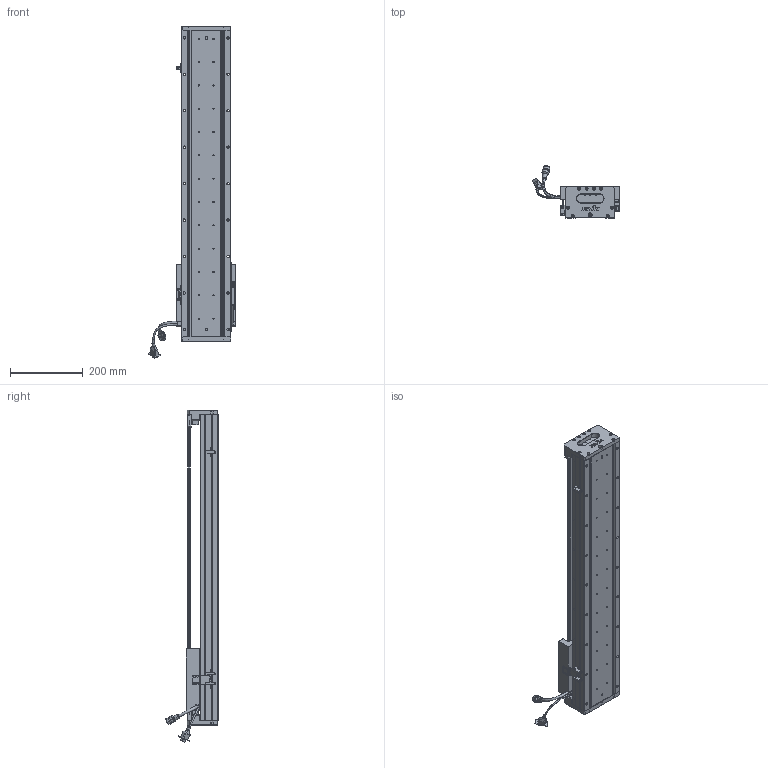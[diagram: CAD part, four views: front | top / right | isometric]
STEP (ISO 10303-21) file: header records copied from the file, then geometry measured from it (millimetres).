
FILE_DESCRIPTION (( 'STEP AP203' ), '1' );
FILE_NAME ('Z2-RY140D-1-L500-B-K.SLDASM_0600.step', '2021-05-17T07:45:06', ( '盈信电脑' ), ( '东莞市道滘镇水果街19号' ), 'SwSTEP 2.0', 'SolidWorks 2016', '' );
FILE_SCHEMA (( 'CONFIG_CONTROL_DESIGN' ));
Length unit declared in the file: millimetre
Products named in the file (36): SCREW-M1.6-3; COVER-Part-1; SEAL; HARNESS-Part-1; Z-RY140詩湍狟揤裔; HARNESS; COVER; SCREW-M1.7-1; SCALE-Part-2; SHIELDPLATE; 140-Z-臏賑輸盄裔(21遴); SCREW-M1.6-2; HARNESS-Part-2; Z2-RY140-L500詩湍100mm遵_0600; PSLH080_PSLF2; SCREW-M1.6; Z-RY140詩湍奻揤裔; 080黍杅芛假蚾釱21遴; HOLDER0; Z2-RY140-L500直线电机模组底座_0600; SCREW-M1.6-1; 140雄赽晤鎢ん堤盄; Z-RY140感应器672光电感应片; LABEL-Part-1; SCALE; 140蚥薯蝶輸; Z2-RY140圉猾敕臏賑輸(21遴); 榋妏寠巭燃_暯_M2_2; SCALE-Part-1; LABEL; SCREW-M1.7; SEAL-Part-1; 覜茼ん672; Z-140詩湍傷裔啣; Z2-RY140D-1-L500-B-K.SLDASM_0600; PBU_SHEET
Assembly tree (41 placements, depth 4):
  Z2-RY140D-1-L500-B-K.SLDASM_0600
    Z2-RY140-L500直线电机模组底座_0600
    Z-RY140感应器672光电感应片
    Z2-RY140圉猾敕臏賑輸(21遴)
    覜茼ん672  x3
    Z2-RY140-L500詩湍100mm遵_0600
    PSLH080_PSLF2
      SCALE
        SCALE-Part-1
        SCALE-Part-2
      HARNESS
        HARNESS-Part-1
        HARNESS-Part-2
      LABEL
        LABEL-Part-1
      COVER
        COVER-Part-1
      SEAL
        SEAL-Part-1
      榋妏寠巭燃_暯_M2_2
      SHIELDPLATE
      SCREW-M1.7
      SCREW-M1.7-1
      PBU_SHEET
      SCREW-M1.6
      SCREW-M1.6-1
      SCREW-M1.6-2
      SCREW-M1.6-3
      HOLDER0
    080黍杅芛假蚾釱21遴
    140-Z-臏賑輸盄裔(21遴)
    Z-140詩湍傷裔啣  x2
    Z-RY140詩湍狟揤裔  x2
    Z-RY140詩湍奻揤裔  x2
    140蚥薯蝶輸  x2
    140雄赽晤鎢ん堤盄
Bounding box: 239.84 x 143.77 x 910.88 mm (x, y, z)
Volume: 3383189.5 mm3; surface area: 889724.6 mm2
Topology: 36 solids, 36 shells, 2856 faces, 7512 edges, 4762 vertices
Faces by surface type: cylinder 1326, plane 1128, cone 270, torus 79, bspline 53
Entity records: 83308 total; most frequent: CARTESIAN_POINT 20990, ORIENTED_EDGE 12196, DIRECTION 12108, EDGE_CURVE 6098, AXIS2_PLACEMENT_3D 4448, VERTEX_POINT 3930, VECTOR 3212, LINE 3212
